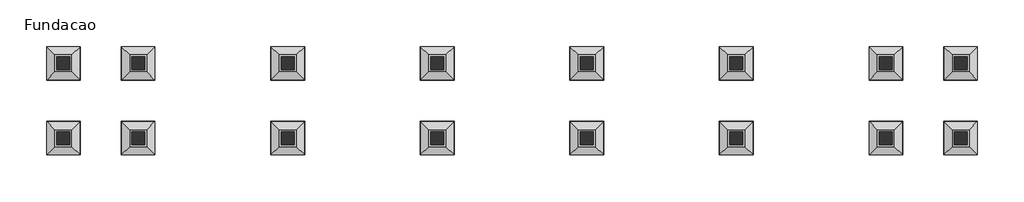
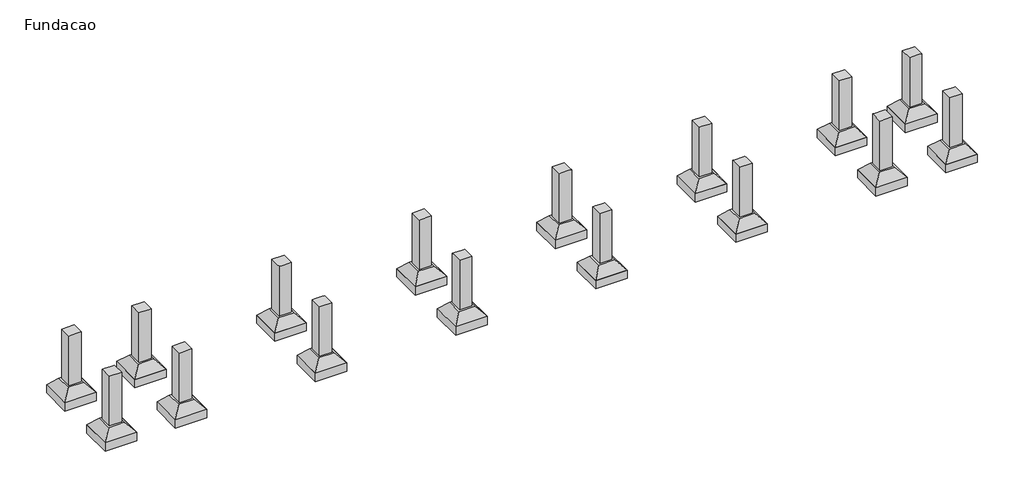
# One storey: 16 columns, 16 fasteners.
"""IFC4 building model written with IfcOpenShell, lengths in millimetres."""

from ifc_helpers import new_model, si_unit, origin, place, context, project, spatial, faceted_brep, transform, mapped, element, save
from components import s1_1ae5638e

model = new_model("IFC4")

# Units and contexts
model_context = context("Model", 3, world=origin())
ifc_project = project(units=[si_unit("LENGTHUNIT", "METRE", prefix="MILLI")], contexts=[model_context])

# Site, building, storey
site = spatial("IfcSite", under=ifc_project)
building = spatial("IfcBuilding", under=site)
storey = spatial("IfcBuildingStorey", under=building, Name="Fundacao", Elevation=0.0)

# Columns
placement = place(None, origin())
element("IfcColumn", 1, ObjectType="TQS - Pilar retangular : 35,0x35,0", at=placement, inside=storey, context=model_context, shape_type="Brep", body=[
    faceted_brep([(-3951.7136, -802.0936, 0.0), (-3951.7136, -1152.0936, 0.0), (-4301.7136, -1152.0936, 0.0), (-4301.7136, -802.0936, 0.0), (-3951.7136, -802.0936, 1500.0), (-3951.7136, -877.0936, 1500.0), (-3951.7136, -1077.0936, 1500.0), (-3951.7136, -1152.0936, 1500.0), (-4301.7136, -1152.0936, 1500.0), (-4301.7136, -802.0936, 1500.0), (-4226.7136, -802.0936, 1500.0), (-4026.7136, -802.0936, 1500.0)], [[[0, 1, 2, 3]], [[4, 5, 6, 7, 1, 0]], [[7, 8, 2, 1]], [[8, 9, 3, 2]], [[9, 10, 11, 4, 0, 3]], [[4, 11, 10, 9, 8, 7, 6, 5]]]),
])
element("IfcColumn", 2, ObjectType="TQS - Pilar retangular : 35,0x35,0", at=placement, inside=storey, context=model_context, shape_type="Brep", body=[
    faceted_brep([(-3951.7136, 1197.9064, 0.0), (-3951.7136, 847.9064, 0.0), (-4301.7136, 847.9064, 0.0), (-4301.7136, 1197.9064, 0.0), (-3951.7136, 1197.9064, 1500.0), (-3951.7136, 1122.9064, 1500.0), (-3951.7136, 922.9064, 1500.0), (-3951.7136, 847.9064, 1500.0), (-4026.7136, 847.9064, 1500.0), (-4226.7136, 847.9064, 1500.0), (-4301.7136, 847.9064, 1500.0), (-4301.7136, 1197.9064, 1500.0)], [[[0, 1, 2, 3]], [[4, 5, 6, 7, 1, 0]], [[7, 8, 9, 10, 2, 1]], [[10, 11, 3, 2]], [[11, 4, 0, 3]], [[4, 11, 10, 9, 8, 7, 6, 5]]]),
])
element("IfcColumn", 3, ObjectType="TQS - Pilar retangular : 35,0x35,0", at=placement, inside=storey, context=model_context, shape_type="Brep", body=[
    faceted_brep([(-1951.7136, -802.0936, 0.0), (-1951.7136, -1152.0936, 0.0), (-2301.7136, -1152.0936, 0.0), (-2301.7136, -802.0936, 0.0), (-1951.7136, -802.0936, 1500.0), (-1951.7136, -877.0936, 1500.0), (-1951.7136, -1077.0936, 1500.0), (-1951.7136, -1152.0936, 1500.0), (-2301.7136, -1152.0936, 1500.0), (-2301.7136, -1077.0936, 1500.0), (-2301.7136, -877.0936, 1500.0), (-2301.7136, -802.0936, 1500.0), (-2226.7136, -802.0936, 1500.0), (-2026.7136, -802.0936, 1500.0)], [[[0, 1, 2, 3]], [[4, 5, 6, 7, 1, 0]], [[7, 8, 2, 1]], [[8, 9, 10, 11, 3, 2]], [[11, 12, 13, 4, 0, 3]], [[4, 13, 12, 11, 10, 9, 8, 7, 6, 5]]]),
])
element("IfcColumn", 4, ObjectType="TQS - Pilar retangular : 35,0x35,0", at=placement, inside=storey, context=model_context, shape_type="Brep", body=[
    faceted_brep([(-1951.7136, 1197.9064, 0.0), (-1951.7136, 847.9064, 0.0), (-2301.7136, 847.9064, 0.0), (-2301.7136, 1197.9064, 0.0), (-1951.7136, 1197.9064, 1500.0), (-1951.7136, 1122.9064, 1500.0), (-1951.7136, 922.9064, 1500.0), (-1951.7136, 847.9064, 1500.0), (-2026.7136, 847.9064, 1500.0), (-2226.7136, 847.9064, 1500.0), (-2301.7136, 847.9064, 1500.0), (-2301.7136, 922.9064, 1500.0), (-2301.7136, 1122.9064, 1500.0), (-2301.7136, 1197.9064, 1500.0)], [[[0, 1, 2, 3]], [[4, 5, 6, 7, 1, 0]], [[7, 8, 9, 10, 2, 1]], [[10, 11, 12, 13, 3, 2]], [[13, 4, 0, 3]], [[4, 13, 12, 11, 10, 9, 8, 7, 6, 5]]]),
])
element("IfcColumn", 5, ObjectType="TQS - Pilar retangular : 35,0x35,0", at=placement, inside=storey, context=model_context, shape_type="Brep", body=[
    faceted_brep([(2048.2864, -802.0936, 0.0), (2048.2864, -1152.0936, 0.0), (1698.2864, -1152.0936, 0.0), (1698.2864, -802.0936, 0.0), (2048.2864, -802.0936, 1500.0), (2048.2864, -877.0936, 1500.0), (2048.2864, -1077.0936, 1500.0), (2048.2864, -1152.0936, 1500.0), (1698.2864, -1152.0936, 1500.0), (1698.2864, -1077.0936, 1500.0), (1698.2864, -877.0936, 1500.0), (1698.2864, -802.0936, 1500.0), (1773.2864, -802.0936, 1500.0), (1973.2864, -802.0936, 1500.0)], [[[0, 1, 2, 3]], [[4, 5, 6, 7, 1, 0]], [[7, 8, 2, 1]], [[8, 9, 10, 11, 3, 2]], [[11, 12, 13, 4, 0, 3]], [[4, 13, 12, 11, 10, 9, 8, 7, 6, 5]]]),
])
element("IfcColumn", 6, ObjectType="TQS - Pilar retangular : 35,0x35,0", at=placement, inside=storey, context=model_context, shape_type="Brep", body=[
    faceted_brep([(2048.2864, 1197.9064, 0.0), (2048.2864, 847.9064, 0.0), (1698.2864, 847.9064, 0.0), (1698.2864, 1197.9064, 0.0), (2048.2864, 1197.9064, 1500.0), (2048.2864, 1122.9064, 1500.0), (2048.2864, 922.9064, 1500.0), (2048.2864, 847.9064, 1500.0), (1973.2864, 847.9064, 1500.0), (1773.2864, 847.9064, 1500.0), (1698.2864, 847.9064, 1500.0), (1698.2864, 922.9064, 1500.0), (1698.2864, 1122.9064, 1500.0), (1698.2864, 1197.9064, 1500.0)], [[[0, 1, 2, 3]], [[4, 5, 6, 7, 1, 0]], [[7, 8, 9, 10, 2, 1]], [[10, 11, 12, 13, 3, 2]], [[13, 4, 0, 3]], [[4, 13, 12, 11, 10, 9, 8, 7, 6, 5]]]),
])
element("IfcColumn", 7, ObjectType="TQS - Pilar retangular : 35,0x35,0", at=placement, inside=storey, context=model_context, shape_type="Brep", body=[
    faceted_brep([(6048.2864, -802.0936, 0.0), (6048.2864, -1152.0936, 0.0), (5698.2864, -1152.0936, 0.0), (5698.2864, -802.0936, 0.0), (6048.2864, -802.0936, 1500.0), (6048.2864, -877.0936, 1500.0), (6048.2864, -1077.0936, 1500.0), (6048.2864, -1152.0936, 1500.0), (5698.2864, -1152.0936, 1500.0), (5698.2864, -1077.0936, 1500.0), (5698.2864, -877.0936, 1500.0), (5698.2864, -802.0936, 1500.0), (5773.2864, -802.0936, 1500.0), (5973.2864, -802.0936, 1500.0)], [[[0, 1, 2, 3]], [[4, 5, 6, 7, 1, 0]], [[7, 8, 2, 1]], [[8, 9, 10, 11, 3, 2]], [[11, 12, 13, 4, 0, 3]], [[4, 13, 12, 11, 10, 9, 8, 7, 6, 5]]]),
])
element("IfcColumn", 8, ObjectType="TQS - Pilar retangular : 35,0x35,0", at=placement, inside=storey, context=model_context, shape_type="Brep", body=[
    faceted_brep([(6048.2864, 1197.9064, 0.0), (6048.2864, 847.9064, 0.0), (5698.2864, 847.9064, 0.0), (5698.2864, 1197.9064, 0.0), (6048.2864, 1197.9064, 1500.0), (6048.2864, 1122.9064, 1500.0), (6048.2864, 922.9064, 1500.0), (6048.2864, 847.9064, 1500.0), (5973.2864, 847.9064, 1500.0), (5773.2864, 847.9064, 1500.0), (5698.2864, 847.9064, 1500.0), (5698.2864, 922.9064, 1500.0), (5698.2864, 1122.9064, 1500.0), (5698.2864, 1197.9064, 1500.0)], [[[0, 1, 2, 3]], [[4, 5, 6, 7, 1, 0]], [[7, 8, 9, 10, 2, 1]], [[10, 11, 12, 13, 3, 2]], [[13, 4, 0, 3]], [[4, 13, 12, 11, 10, 9, 8, 7, 6, 5]]]),
])
element("IfcColumn", 9, ObjectType="TQS - Pilar retangular : 35,0x35,0", at=placement, inside=storey, context=model_context, shape_type="Brep", body=[
    faceted_brep([(10048.2864, -802.0936, 0.0), (10048.2864, -1152.0936, 0.0), (9698.2864, -1152.0936, 0.0), (9698.2864, -802.0936, 0.0), (10048.2864, -802.0936, 1500.0), (10048.2864, -877.0936, 1500.0), (10048.2864, -1077.0936, 1500.0), (10048.2864, -1152.0936, 1500.0), (9698.2864, -1152.0936, 1500.0), (9698.2864, -1077.0936, 1500.0), (9698.2864, -877.0936, 1500.0), (9698.2864, -802.0936, 1500.0), (9773.2864, -802.0936, 1500.0), (9973.2864, -802.0936, 1500.0)], [[[0, 1, 2, 3]], [[4, 5, 6, 7, 1, 0]], [[7, 8, 2, 1]], [[8, 9, 10, 11, 3, 2]], [[11, 12, 13, 4, 0, 3]], [[4, 13, 12, 11, 10, 9, 8, 7, 6, 5]]]),
])
element("IfcColumn", 10, ObjectType="TQS - Pilar retangular : 35,0x35,0", at=placement, inside=storey, context=model_context, shape_type="Brep", body=[
    faceted_brep([(10048.2864, 1197.9064, 0.0), (10048.2864, 847.9064, 0.0), (9698.2864, 847.9064, 0.0), (9698.2864, 1197.9064, 0.0), (10048.2864, 1197.9064, 1500.0), (10048.2864, 1122.9064, 1500.0), (10048.2864, 922.9064, 1500.0), (10048.2864, 847.9064, 1500.0), (9973.2864, 847.9064, 1500.0), (9773.2864, 847.9064, 1500.0), (9698.2864, 847.9064, 1500.0), (9698.2864, 922.9064, 1500.0), (9698.2864, 1122.9064, 1500.0), (9698.2864, 1197.9064, 1500.0)], [[[0, 1, 2, 3]], [[4, 5, 6, 7, 1, 0]], [[7, 8, 9, 10, 2, 1]], [[10, 11, 12, 13, 3, 2]], [[13, 4, 0, 3]], [[4, 13, 12, 11, 10, 9, 8, 7, 6, 5]]]),
])
element("IfcColumn", 11, ObjectType="TQS - Pilar retangular : 35,0x35,0", at=placement, inside=storey, context=model_context, shape_type="Brep", body=[
    faceted_brep([(14048.2864, -802.0936, 0.0), (14048.2864, -1152.0936, 0.0), (13698.2864, -1152.0936, 0.0), (13698.2864, -802.0936, 0.0), (14048.2864, -802.0936, 1500.0), (14048.2864, -877.0936, 1500.0), (14048.2864, -1077.0936, 1500.0), (14048.2864, -1152.0936, 1500.0), (13698.2864, -1152.0936, 1500.0), (13698.2864, -1077.0936, 1500.0), (13698.2864, -877.0936, 1500.0), (13698.2864, -802.0936, 1500.0), (13773.2864, -802.0936, 1500.0), (13973.2864, -802.0936, 1500.0)], [[[0, 1, 2, 3]], [[4, 5, 6, 7, 1, 0]], [[7, 8, 2, 1]], [[8, 9, 10, 11, 3, 2]], [[11, 12, 13, 4, 0, 3]], [[4, 13, 12, 11, 10, 9, 8, 7, 6, 5]]]),
])
element("IfcColumn", 12, ObjectType="TQS - Pilar retangular : 35,0x35,0", at=placement, inside=storey, context=model_context, shape_type="Brep", body=[
    faceted_brep([(14048.2864, 1197.9064, 0.0), (14048.2864, 847.9064, 0.0), (13698.2864, 847.9064, 0.0), (13698.2864, 1197.9064, 0.0), (14048.2864, 1197.9064, 1500.0), (14048.2864, 1122.9064, 1500.0), (14048.2864, 922.9064, 1500.0), (14048.2864, 847.9064, 1500.0), (13973.2864, 847.9064, 1500.0), (13773.2864, 847.9064, 1500.0), (13698.2864, 847.9064, 1500.0), (13698.2864, 922.9064, 1500.0), (13698.2864, 1122.9064, 1500.0), (13698.2864, 1197.9064, 1500.0)], [[[0, 1, 2, 3]], [[4, 5, 6, 7, 1, 0]], [[7, 8, 9, 10, 2, 1]], [[10, 11, 12, 13, 3, 2]], [[13, 4, 0, 3]], [[4, 13, 12, 11, 10, 9, 8, 7, 6, 5]]]),
])
element("IfcColumn", 13, ObjectType="TQS - Pilar retangular : 35,0x35,0", at=placement, inside=storey, context=model_context, shape_type="Brep", body=[
    faceted_brep([(18048.2864, -802.0936, 0.0), (18048.2864, -1152.0936, 0.0), (17698.2864, -1152.0936, 0.0), (17698.2864, -802.0936, 0.0), (18048.2864, -802.0936, 1500.0), (18048.2864, -877.0936, 1500.0), (18048.2864, -1077.0936, 1500.0), (18048.2864, -1152.0936, 1500.0), (17698.2864, -1152.0936, 1500.0), (17698.2864, -1077.0936, 1500.0), (17698.2864, -877.0936, 1500.0), (17698.2864, -802.0936, 1500.0), (17773.2864, -802.0936, 1500.0), (17973.2864, -802.0936, 1500.0)], [[[0, 1, 2, 3]], [[4, 5, 6, 7, 1, 0]], [[7, 8, 2, 1]], [[8, 9, 10, 11, 3, 2]], [[11, 12, 13, 4, 0, 3]], [[4, 13, 12, 11, 10, 9, 8, 7, 6, 5]]]),
])
element("IfcColumn", 14, ObjectType="TQS - Pilar retangular : 35,0x35,0", at=placement, inside=storey, context=model_context, shape_type="Brep", body=[
    faceted_brep([(18048.2864, 1197.9064, 0.0), (18048.2864, 847.9064, 0.0), (17698.2864, 847.9064, 0.0), (17698.2864, 1197.9064, 0.0), (18048.2864, 1197.9064, 1500.0), (18048.2864, 1122.9064, 1500.0), (18048.2864, 922.9064, 1500.0), (18048.2864, 847.9064, 1500.0), (17973.2864, 847.9064, 1500.0), (17773.2864, 847.9064, 1500.0), (17698.2864, 847.9064, 1500.0), (17698.2864, 922.9064, 1500.0), (17698.2864, 1122.9064, 1500.0), (17698.2864, 1197.9064, 1500.0)], [[[0, 1, 2, 3]], [[4, 5, 6, 7, 1, 0]], [[7, 8, 9, 10, 2, 1]], [[10, 11, 12, 13, 3, 2]], [[13, 4, 0, 3]], [[4, 13, 12, 11, 10, 9, 8, 7, 6, 5]]]),
])
element("IfcColumn", 15, ObjectType="TQS - Pilar retangular : 35,0x35,0", at=placement, inside=storey, context=model_context, shape_type="Brep", body=[
    faceted_brep([(20048.2864, -802.0936, 0.0), (20048.2864, -1152.0936, 0.0), (19698.2864, -1152.0936, 0.0), (19698.2864, -802.0936, 0.0), (20048.2864, -802.0936, 1500.0), (20048.2864, -1152.0936, 1500.0), (19698.2864, -1152.0936, 1500.0), (19698.2864, -1077.0936, 1500.0), (19698.2864, -877.0936, 1500.0), (19698.2864, -802.0936, 1500.0), (19773.2864, -802.0936, 1500.0), (19973.2864, -802.0936, 1500.0)], [[[0, 1, 2, 3]], [[4, 5, 1, 0]], [[5, 6, 2, 1]], [[6, 7, 8, 9, 3, 2]], [[9, 10, 11, 4, 0, 3]], [[4, 11, 10, 9, 8, 7, 6, 5]]]),
])
element("IfcColumn", 16, ObjectType="TQS - Pilar retangular : 35,0x35,0", at=placement, inside=storey, context=model_context, shape_type="Brep", body=[
    faceted_brep([(20048.2864, 1197.9064, 0.0), (20048.2864, 847.9064, 0.0), (19698.2864, 847.9064, 0.0), (19698.2864, 1197.9064, 0.0), (20048.2864, 1197.9064, 1500.0), (20048.2864, 847.9064, 1500.0), (19973.2864, 847.9064, 1500.0), (19773.2864, 847.9064, 1500.0), (19698.2864, 847.9064, 1500.0), (19698.2864, 922.9064, 1500.0), (19698.2864, 1122.9064, 1500.0), (19698.2864, 1197.9064, 1500.0)], [[[0, 1, 2, 3]], [[4, 5, 1, 0]], [[5, 6, 7, 8, 2, 1]], [[8, 9, 10, 11, 3, 2]], [[11, 4, 0, 3]], [[4, 11, 10, 9, 8, 7, 6, 5]]]),
])

# Fasteners
s1_shape = s1_1ae5638e(model_context)
element("IfcFastener", 17, ObjectType="TQS - Sapata : S1", at=placement, inside=storey, context=model_context, shape_type="MappedRepresentation", body=[
    mapped(s1_shape, transform((-3926.7136, 1222.9064, 0.0), x_axis=(1.0, 0.0, 0.0), y_axis=(0.0, 1.0, 0.0), z_axis=(0.0, 0.0, 1.0))),
])
element("IfcFastener", 18, ObjectType="TQS - Sapata : S10", at=placement, inside=storey, context=model_context, shape_type="MappedRepresentation", body=[
    mapped(s1_shape, transform((-1926.7136, -777.0936, 0.0), x_axis=(1.0, 0.0, 0.0), y_axis=(0.0, 1.0, 0.0), z_axis=(0.0, 0.0, 1.0))),
])
element("IfcFastener", 19, ObjectType="TQS - Sapata : S11", at=placement, inside=storey, context=model_context, shape_type="MappedRepresentation", body=[
    mapped(s1_shape, transform((2073.2864, -777.0936, 0.0), x_axis=(1.0, 0.0, 0.0), y_axis=(0.0, 1.0, 0.0), z_axis=(0.0, 0.0, 1.0))),
])
element("IfcFastener", 20, ObjectType="TQS - Sapata : S12", at=placement, inside=storey, context=model_context, shape_type="MappedRepresentation", body=[
    mapped(s1_shape, transform((6073.2864, -777.0936, 0.0), x_axis=(1.0, 0.0, 0.0), y_axis=(0.0, 1.0, 0.0), z_axis=(0.0, 0.0, 1.0))),
])
element("IfcFastener", 21, ObjectType="TQS - Sapata : S13", at=placement, inside=storey, context=model_context, shape_type="MappedRepresentation", body=[
    mapped(s1_shape, transform((10073.2864, -777.0936, 0.0), x_axis=(1.0, 0.0, 0.0), y_axis=(0.0, 1.0, 0.0), z_axis=(0.0, 0.0, 1.0))),
])
element("IfcFastener", 22, ObjectType="TQS - Sapata : S14", at=placement, inside=storey, context=model_context, shape_type="MappedRepresentation", body=[
    mapped(s1_shape, transform((14073.2864, -777.0936, 0.0), x_axis=(1.0, 0.0, 0.0), y_axis=(0.0, 1.0, 0.0), z_axis=(0.0, 0.0, 1.0))),
])
element("IfcFastener", 23, ObjectType="TQS - Sapata : S15", at=placement, inside=storey, context=model_context, shape_type="MappedRepresentation", body=[
    mapped(s1_shape, transform((18073.2864, -777.0936, 0.0), x_axis=(1.0, 0.0, 0.0), y_axis=(0.0, 1.0, 0.0), z_axis=(0.0, 0.0, 1.0))),
])
element("IfcFastener", 24, ObjectType="TQS - Sapata : S16", at=placement, inside=storey, context=model_context, shape_type="MappedRepresentation", body=[
    mapped(s1_shape, transform((20073.2864, -777.0936, 0.0), x_axis=(1.0, 0.0, 0.0), y_axis=(0.0, 1.0, 0.0), z_axis=(0.0, 0.0, 1.0))),
])
element("IfcFastener", 25, ObjectType="TQS - Sapata : S2", at=placement, inside=storey, context=model_context, shape_type="MappedRepresentation", body=[
    mapped(s1_shape, transform((-1926.7136, 1222.9064, 0.0), x_axis=(1.0, 0.0, 0.0), y_axis=(0.0, 1.0, 0.0), z_axis=(0.0, 0.0, 1.0))),
])
element("IfcFastener", 26, ObjectType="TQS - Sapata : S3", at=placement, inside=storey, context=model_context, shape_type="MappedRepresentation", body=[
    mapped(s1_shape, transform((2073.2864, 1222.9064, 0.0), x_axis=(1.0, 0.0, 0.0), y_axis=(0.0, 1.0, 0.0), z_axis=(0.0, 0.0, 1.0))),
])
element("IfcFastener", 27, ObjectType="TQS - Sapata : S4", at=placement, inside=storey, context=model_context, shape_type="MappedRepresentation", body=[
    mapped(s1_shape, transform((6073.2864, 1222.9064, 0.0), x_axis=(1.0, 0.0, 0.0), y_axis=(0.0, 1.0, 0.0), z_axis=(0.0, 0.0, 1.0))),
])
element("IfcFastener", 28, ObjectType="TQS - Sapata : S5", at=placement, inside=storey, context=model_context, shape_type="MappedRepresentation", body=[
    mapped(s1_shape, transform((10073.2864, 1222.9064, 0.0), x_axis=(1.0, 0.0, 0.0), y_axis=(0.0, 1.0, 0.0), z_axis=(0.0, 0.0, 1.0))),
])
element("IfcFastener", 29, ObjectType="TQS - Sapata : S6", at=placement, inside=storey, context=model_context, shape_type="MappedRepresentation", body=[
    mapped(s1_shape, transform((14073.2864, 1222.9064, 0.0), x_axis=(1.0, 0.0, 0.0), y_axis=(0.0, 1.0, 0.0), z_axis=(0.0, 0.0, 1.0))),
])
element("IfcFastener", 30, ObjectType="TQS - Sapata : S7", at=placement, inside=storey, context=model_context, shape_type="MappedRepresentation", body=[
    mapped(s1_shape, transform((18073.2864, 1222.9064, 0.0), x_axis=(1.0, 0.0, 0.0), y_axis=(0.0, 1.0, 0.0), z_axis=(0.0, 0.0, 1.0))),
])
element("IfcFastener", 31, ObjectType="TQS - Sapata : S8", at=placement, inside=storey, context=model_context, shape_type="MappedRepresentation", body=[
    mapped(s1_shape, transform((20073.2864, 1222.9064, 0.0), x_axis=(1.0, 0.0, 0.0), y_axis=(0.0, 1.0, 0.0), z_axis=(0.0, 0.0, 1.0))),
])
element("IfcFastener", 32, ObjectType="TQS - Sapata : S9", at=placement, inside=storey, context=model_context, shape_type="MappedRepresentation", body=[
    mapped(s1_shape, transform((-3926.7136, -777.0936, 0.0), x_axis=(1.0, 0.0, 0.0), y_axis=(0.0, 1.0, 0.0), z_axis=(0.0, 0.0, 1.0))),
])

save(model, "model.ifc")
